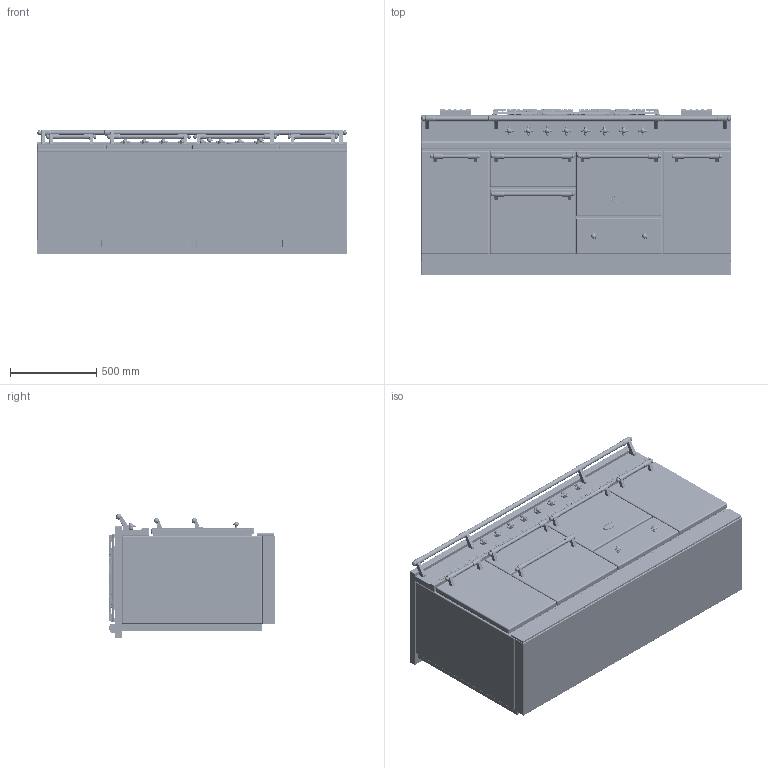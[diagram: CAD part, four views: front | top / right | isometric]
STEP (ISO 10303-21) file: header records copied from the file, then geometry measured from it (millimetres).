
FILE_DESCRIPTION((''),'2;1');
FILE_NAME('LG1853_ASM','2021-12-02T09:50:12',('j.cheno'),(''),'CREO PARAMETRIC BY PTC INC, 2017260','CREO PARAMETRIC BY PTC INC, 2017260','');
FILE_SCHEMA(('AP203_CONFIGURATION_CONTROLLED_3D_DESIGN_OF_MECHANICAL_PARTS_AND_ASSEMBLIES_MIM_LF { 1 0 10303 403 2 1 2 }'));
Products named in the file (29): BASE_EXPORT_CHAGNY_1800; 65650003; 65650004; 65650006; 65650007; 6531940; 6531941; 6531943; 65049009; 65650001; 6538399; 1931942; 65080022_AF0; 6531942_ASM; BASE_EXPORT_CHAGNY_1800_ASM; TABLE_1805_CLASSIQUE; 3KW; 5KW; 1_5KW; 4KW; 6537025; 65149005; 90000488_ASM; 6537023; 90000565_ASM; CHEMINEE_2020_LG182_EXPORT_STEP; CHEMINEE_2020_LG371_EXPORT_STEP; TABLE_1805_CLASSIQUE_ASM; LG1853_ASM
Assembly tree (56 placements, depth 4):
  LG1853_ASM
    BASE_EXPORT_CHAGNY_1800_ASM
      BASE_EXPORT_CHAGNY_1800
      65650003
      65650004
      65650006
      65650007
      6531940  x5
      6531941  x5
      6531943  x2
      65049009
      65650001
      6531942_ASM  x8
        6538399
        1931942
        65080022_AF0
    TABLE_1805_CLASSIQUE_ASM
      TABLE_1805_CLASSIQUE
      3KW  x2
      5KW
      1_5KW
      4KW
      90000488_ASM  x2
        6537025
        65149005
      90000565_ASM  x2
        6537023
        65149005
      CHEMINEE_2020_LG182_EXPORT_STEP  x2
      CHEMINEE_2020_LG371_EXPORT_STEP  x2
Bounding box: 1805 x 965 x 724 mm (x, y, z)
Volume: 658884547.6 mm3; surface area: 16046004.8 mm2
Topology: 83 solids, 99 shells, 9369 faces, 24245 edges, 14995 vertices
Faces by surface type: plane 3789, cylinder 2965, bspline 1220, torus 412, cone 407, sphere 286, extrusion 266, revolution 24
Entity records: 178105 total; most frequent: CARTESIAN_POINT 53106, ORIENTED_EDGE 21464, DIRECTION 20034, EDGE_CURVE 10746, AXIS2_PLACEMENT_3D 7006, VERTEX_POINT 6663, VECTOR 5932, LINE 5882
